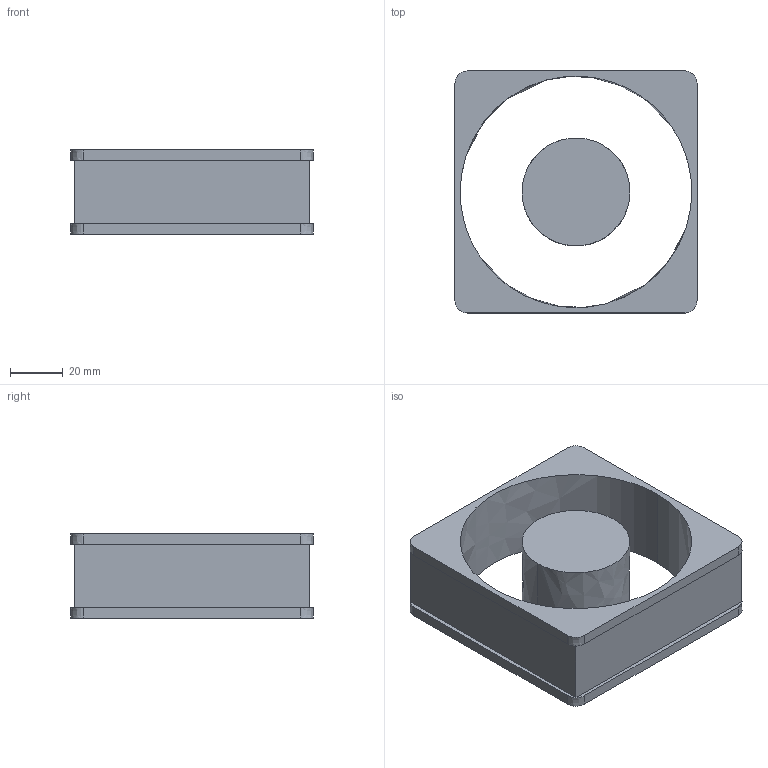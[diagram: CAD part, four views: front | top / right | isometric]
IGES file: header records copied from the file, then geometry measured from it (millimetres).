
Start section:  PTC IGES file: fan92_1.igs
Global section: file name: fan92_1.igs; native system: Creo Parametric by Parametric Technology Corporation; preprocessor: 2014310; author: JR20012; organization: Unknown; date: 20160927.133802; units: millimetre
Bounding box: 92 x 92 x 32 mm (x, y, z)
Volume: 105281.4 mm3; surface area: 32804 mm2
Topology: 2 solids, 2 shells, 30 faces, 72 edges, 48 vertices
Faces by surface type: bspline 30
